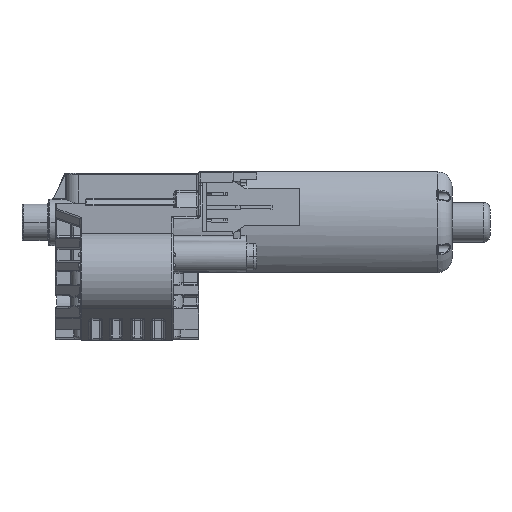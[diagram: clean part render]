
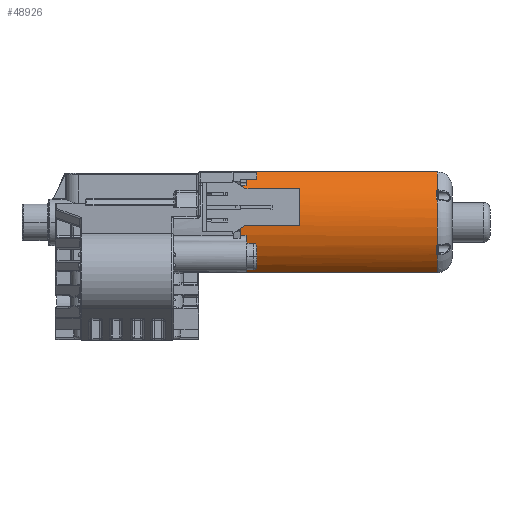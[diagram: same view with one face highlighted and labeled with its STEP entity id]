
A CAD part, left-side view. The second image highlights one B-rep face of the part: STEP entity #48926.
In plain terms, the highlighted cylindrical face has radius 19.5 mm (diameter 39 mm), a partial arc.
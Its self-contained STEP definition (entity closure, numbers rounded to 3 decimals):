
#3515=DIRECTION('',(0.,-1.,0.));
#3516=VECTOR('',#3515,57.4);
#3517=CARTESIAN_POINT('',(-12.277,-1.8,15.15));
#3518=LINE('2260',#3517,#3516);
#3712=CARTESIAN_POINT('',(0.,0.,0.));
#3713=DIRECTION('',(0.,1.,0.));
#3714=DIRECTION('',(-0.981,0.,-0.195));
#3715=AXIS2_PLACEMENT_3D('',#3712,#3713,#3714);
#3717=DIRECTION('',(0.,-1.,0.));
#3718=VECTOR('',#3717,1.8);
#3719=CARTESIAN_POINT('',(-15.954,0.,11.213));
#3720=LINE('6864',#3719,#3718);
#3721=CARTESIAN_POINT('',(-16.917,-59.2,
9.699));
#3722=CARTESIAN_POINT('',(-16.924,-59.175,
9.686));
#3723=CARTESIAN_POINT('',(-16.94,-59.128,
9.658));
#3724=CARTESIAN_POINT('',(-16.971,-59.062,
9.604));
#3725=CARTESIAN_POINT('',(-17.007,-59.004,
9.541));
#3726=CARTESIAN_POINT('',(-17.047,-58.957,
9.469));
#3727=CARTESIAN_POINT('',(-17.089,-58.924,
9.392));
#3728=CARTESIAN_POINT('',(-17.133,-58.904,
9.312));
#3729=CARTESIAN_POINT('',(-17.161,-58.9,
9.26));
#3730=CARTESIAN_POINT('',(-17.175,-58.9,9.233));
#3732=CARTESIAN_POINT('',(-18.083,-58.9,
7.298));
#3733=CARTESIAN_POINT('',(-18.094,-58.9,
7.271));
#3734=CARTESIAN_POINT('',(-18.116,-58.904,
7.216));
#3735=CARTESIAN_POINT('',(-18.149,-58.924,
7.133));
#3736=CARTESIAN_POINT('',(-18.181,-58.957,
7.051));
#3737=CARTESIAN_POINT('',(-18.21,-59.004,
6.975));
#3738=CARTESIAN_POINT('',(-18.236,-59.061,
6.907));
#3739=CARTESIAN_POINT('',(-18.257,-59.128,
6.85));
#3740=CARTESIAN_POINT('',(-18.269,-59.175,
6.819));
#3741=CARTESIAN_POINT('',(-18.274,-59.2,
6.806));
#3743=CARTESIAN_POINT('',(-18.274,-59.2,
-6.805));
#3744=CARTESIAN_POINT('',(-18.269,-59.175,
-6.818));
#3745=CARTESIAN_POINT('',(-18.258,-59.128,
-6.849));
#3746=CARTESIAN_POINT('',(-18.236,-59.061,
-6.906));
#3747=CARTESIAN_POINT('',(-18.21,-59.004,
-6.974));
#3748=CARTESIAN_POINT('',(-18.181,-58.957,
-7.05));
#3749=CARTESIAN_POINT('',(-18.149,-58.924,
-7.132));
#3750=CARTESIAN_POINT('',(-18.116,-58.904,
-7.215));
#3751=CARTESIAN_POINT('',(-18.094,-58.9,
-7.27));
#3752=CARTESIAN_POINT('',(-18.083,-58.9,
-7.297));
#3754=CARTESIAN_POINT('',(-17.211,-58.9,
-9.166));
#3755=CARTESIAN_POINT('',(-17.198,-58.9,
-9.192));
#3756=CARTESIAN_POINT('',(-17.17,-58.904,
-9.244));
#3757=CARTESIAN_POINT('',(-17.127,-58.924,
-9.323));
#3758=CARTESIAN_POINT('',(-17.085,-58.957,
-9.4));
#3759=CARTESIAN_POINT('',(-17.046,-59.004,
-9.471));
#3760=CARTESIAN_POINT('',(-17.01,-59.061,
-9.534));
#3761=CARTESIAN_POINT('',(-16.98,-59.128,
-9.588));
#3762=CARTESIAN_POINT('',(-16.964,-59.175,
-9.616));
#3763=CARTESIAN_POINT('',(-16.957,-59.2,
-9.629));
#3765=DIRECTION('',(0.,-1.,0.));
#3766=VECTOR('',#3765,57.4);
#3767=CARTESIAN_POINT('',(-12.277,-1.8,-15.15));
#3768=LINE('2259',#3767,#3766);
#3769=DIRECTION('',(0.,1.,0.));
#3770=VECTOR('',#3769,1.8);
#3771=CARTESIAN_POINT('',(-19.125,-1.8,-3.807));
#3772=LINE('6886',#3771,#3770);
#3875=CARTESIAN_POINT('',(0.,-1.8,0.));
#3876=DIRECTION('',(0.,-1.,0.));
#3877=DIRECTION('',(-0.63,0.,0.777));
#3878=AXIS2_PLACEMENT_3D('',#3875,#3876,#3877);
#18004=CARTESIAN_POINT('',(0.,-1.8,0.));
#18005=DIRECTION('',(0.,-1.,0.));
#18006=DIRECTION('',(-0.981,0.,-0.195));
#18007=AXIS2_PLACEMENT_3D('',#18004,#18005,#18006);
#20740=CARTESIAN_POINT('',(-18.274,-59.2,
-6.805));
#20742=CARTESIAN_POINT('',(0.,-59.2,0.));
#20743=DIRECTION('',(0.,1.,0.));
#20744=DIRECTION('',(-0.937,0.,-0.349));
#20745=AXIS2_PLACEMENT_3D('',#20742,#20743,#20744);
#20810=CARTESIAN_POINT('',(-16.917,-59.2,
9.699));
#20812=CARTESIAN_POINT('',(0.,-59.2,0.));
#20813=DIRECTION('',(0.,1.,0.));
#20814=DIRECTION('',(-0.868,0.,0.497));
#20815=AXIS2_PLACEMENT_3D('',#20812,#20813,#20814);
#20842=CARTESIAN_POINT('',(0.,-59.2,0.));
#20843=DIRECTION('',(0.,1.,0.));
#20844=DIRECTION('',(-0.63,0.,-0.777));
#20845=AXIS2_PLACEMENT_3D('',#20842,#20843,#20844);
#21034=CARTESIAN_POINT('',(0.,-58.9,0.));
#21035=DIRECTION('',(0.,1.,0.));
#21036=DIRECTION('',(-0.883,0.,-0.47));
#21037=AXIS2_PLACEMENT_3D('',#21034,#21035,#21036);
#21167=CARTESIAN_POINT('',(0.,-58.9,0.));
#21168=DIRECTION('',(0.,1.,0.));
#21169=DIRECTION('',(-0.927,0.,0.374));
#21170=AXIS2_PLACEMENT_3D('',#21167,#21168,#21169);
#37778=CARTESIAN_POINT('',(-15.954,-1.8,11.213));
#37779=VERTEX_POINT('',#37778);
#37872=CARTESIAN_POINT('',(-18.083,-58.9,
7.298));
#37873=VERTEX_POINT('',#37872);
#37874=CARTESIAN_POINT('',(-17.175,-58.9,9.233));
#37875=VERTEX_POINT('',#37874);
#37882=CARTESIAN_POINT('',(-17.211,-58.9,
-9.166));
#37883=VERTEX_POINT('',#37882);
#37884=CARTESIAN_POINT('',(-18.083,-58.9,-7.297));
#37885=VERTEX_POINT('',#37884);
#37914=CARTESIAN_POINT('',(-19.125,-1.8,-3.807));
#37916=VERTEX_POINT('',#37914);
#37920=CARTESIAN_POINT('',(-12.277,-1.8,-15.15));
#37921=VERTEX_POINT('',#37920);
#37926=CARTESIAN_POINT('',(-12.277,-1.8,15.15));
#37927=VERTEX_POINT('',#37926);
#37936=CARTESIAN_POINT('',(-12.277,-59.2,-15.15));
#37938=VERTEX_POINT('',#37936);
#37941=CARTESIAN_POINT('',(-12.277,-59.2,15.15));
#37943=VERTEX_POINT('',#37941);
#37958=VERTEX_POINT('',#3763);
#37959=VERTEX_POINT('',#20740);
#37962=VERTEX_POINT('',#3741);
#37963=VERTEX_POINT('',#20810);
#42461=CARTESIAN_POINT('',(-19.125,0.,-3.807));
#42462=CARTESIAN_POINT('',(-15.954,0.,11.212));
#42463=VERTEX_POINT('',#42461);
#42464=VERTEX_POINT('',#42462);
#48891=CARTESIAN_POINT('',(0.,0.,0.));
#48892=DIRECTION('',(0.,1.,0.));
#48893=DIRECTION('',(-1.,0.,0.));
#48894=AXIS2_PLACEMENT_3D('',#48891,#48892,#48893);
#48895=CYLINDRICAL_SURFACE('51',#48894,19.5);
#48896=ORIENTED_EDGE('6828',*,*,#48750,.T.);
#48898=ORIENTED_EDGE('6864',*,*,#48897,.T.);
#48900=ORIENTED_EDGE('2247',*,*,#48899,.F.);
#48901=ORIENTED_EDGE('2260',*,*,#48673,.T.);
#48903=ORIENTED_EDGE('2305',*,*,#48902,.F.);
#48905=ORIENTED_EDGE('2304',*,*,#48904,.T.);
#48907=ORIENTED_EDGE('2333',*,*,#48906,.F.);
#48909=ORIENTED_EDGE('2301',*,*,#48908,.T.);
#48911=ORIENTED_EDGE('2306',*,*,#48910,.F.);
#48913=ORIENTED_EDGE('2294',*,*,#48912,.T.);
#48915=ORIENTED_EDGE('2335',*,*,#48914,.F.);
#48917=ORIENTED_EDGE('2291',*,*,#48916,.T.);
#48919=ORIENTED_EDGE('2307',*,*,#48918,.F.);
#48920=ORIENTED_EDGE('2259',*,*,#47744,.F.);
#48922=ORIENTED_EDGE('2248',*,*,#48921,.F.);
#48923=ORIENTED_EDGE('6886',*,*,#48872,.T.);
#48924=EDGE_LOOP('51',(#48896,#48898,#48900,#48901,#48903,#48905,#48907,#48909,
#48911,#48913,#48915,#48917,#48919,#48920,#48922,#48923));
#48925=FACE_OUTER_BOUND('51',#48924,.F.);
#48926=ADVANCED_FACE('51',(#48925),#48895,.T.);
#3716=CIRCLE('6828',#3715,19.5);
#3731=B_SPLINE_CURVE_WITH_KNOTS('2304',3,(#3721,#3722,#3723,#3724,#3725,#3726,
#3727,#3728,#3729,#3730),.UNSPECIFIED.,.F.,.F.,(4,1,1,1,1,1,1,4),(0.,
0.143,0.286,0.429,0.571,
0.714,0.857,1.),.UNSPECIFIED.);
#3742=B_SPLINE_CURVE_WITH_KNOTS('2301',3,(#3732,#3733,#3734,#3735,#3736,#3737,
#3738,#3739,#3740,#3741),.UNSPECIFIED.,.F.,.F.,(4,1,1,1,1,1,1,4),(0.,
0.143,0.286,0.429,0.571,
0.714,0.857,1.),.UNSPECIFIED.);
#3753=B_SPLINE_CURVE_WITH_KNOTS('2294',3,(#3743,#3744,#3745,#3746,#3747,#3748,
#3749,#3750,#3751,#3752),.UNSPECIFIED.,.F.,.F.,(4,1,1,1,1,1,1,4),(0.,
0.143,0.286,0.429,0.571,
0.714,0.857,1.),.UNSPECIFIED.);
#3764=B_SPLINE_CURVE_WITH_KNOTS('2291',3,(#3754,#3755,#3756,#3757,#3758,#3759,
#3760,#3761,#3762,#3763),.UNSPECIFIED.,.F.,.F.,(4,1,1,1,1,1,1,4),(0.,
0.143,0.286,0.429,0.571,
0.714,0.857,1.),.UNSPECIFIED.);
#3879=CIRCLE('2247',#3878,19.5);
#18008=CIRCLE('2248',#18007,19.5);
#20746=CIRCLE('2306',#20745,19.5);
#20816=CIRCLE('2305',#20815,19.5);
#20846=CIRCLE('2307',#20845,19.5);
#21038=CIRCLE('2335',#21037,19.5);
#21171=CIRCLE('2333',#21170,19.5);
#47744=EDGE_CURVE('2259',#37921,#37938,#3768,.T.);
#48673=EDGE_CURVE('2260',#37927,#37943,#3518,.T.);
#48750=EDGE_CURVE('6828',#42463,#42464,#3716,.T.);
#48872=EDGE_CURVE('6886',#37916,#42463,#3772,.T.);
#48897=EDGE_CURVE('6864',#42464,#37779,#3720,.T.);
#48899=EDGE_CURVE('2247',#37927,#37779,#3879,.T.);
#48902=EDGE_CURVE('2305',#37963,#37943,#20816,.T.);
#48904=EDGE_CURVE('2304',#37963,#37875,#3731,.T.);
#48906=EDGE_CURVE('2333',#37873,#37875,#21171,.T.);
#48908=EDGE_CURVE('2301',#37873,#37962,#3742,.T.);
#48910=EDGE_CURVE('2306',#37959,#37962,#20746,.T.);
#48912=EDGE_CURVE('2294',#37959,#37885,#3753,.T.);
#48914=EDGE_CURVE('2335',#37883,#37885,#21038,.T.);
#48916=EDGE_CURVE('2291',#37883,#37958,#3764,.T.);
#48918=EDGE_CURVE('2307',#37938,#37958,#20846,.T.);
#48921=EDGE_CURVE('2248',#37916,#37921,#18008,.T.);
